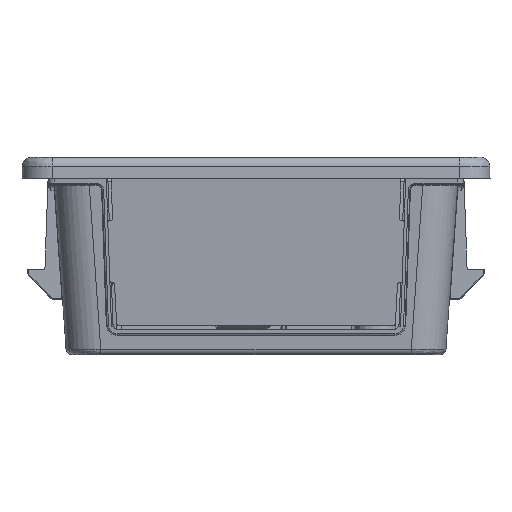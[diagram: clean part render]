
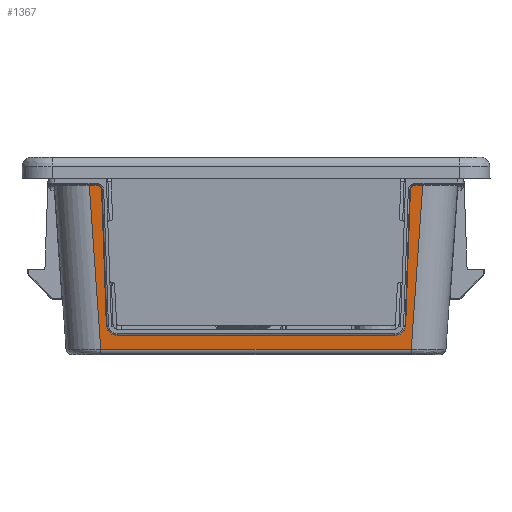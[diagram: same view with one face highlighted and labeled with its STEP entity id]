
A CAD part, front view. The second image highlights one B-rep face of the part: STEP entity #1367.
In plain terms, the highlighted planar face has unit normal (0, -0.998, -0.07).
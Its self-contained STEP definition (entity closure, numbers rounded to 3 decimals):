
#1367=ADVANCED_FACE('',(#28128),#28130,.T.);
#28128=FACE_BOUND('',#28129,.T.);
#28129=EDGE_LOOP('',(#48458,#48459,#48460,#48461,#48462,#48463,#48464,#48465,#48466,
#48467,#48468,#48469));
#28130=PLANE('',#28131);
#28131=AXIS2_PLACEMENT_3D('',#28132,#28133,#28134);
#28132=CARTESIAN_POINT('',(-37.25,-68.,33.));
#28133=DIRECTION('',(0.,-0.998,-0.07));
#28134=DIRECTION('',(-1.,0.,0.));
#48458=ORIENTED_EDGE('',*,*,#58704,.F.);
#48459=ORIENTED_EDGE('',*,*,#58741,.F.);
#48460=ORIENTED_EDGE('',*,*,#58742,.F.);
#48461=ORIENTED_EDGE('',*,*,#58743,.F.);
#48462=ORIENTED_EDGE('',*,*,#58744,.F.);
#48463=ORIENTED_EDGE('',*,*,#58745,.F.);
#48464=ORIENTED_EDGE('',*,*,#58746,.F.);
#48465=ORIENTED_EDGE('',*,*,#58747,.F.);
#48466=ORIENTED_EDGE('',*,*,#58748,.F.);
#48467=ORIENTED_EDGE('',*,*,#58749,.F.);
#48468=ORIENTED_EDGE('',*,*,#58750,.F.);
#48469=ORIENTED_EDGE('',*,*,#58738,.F.);
#58704=EDGE_CURVE('',#67347,#67344,#67349,.T.);
#58738=EDGE_CURVE('',#67344,#67399,#67400,.T.);
#58741=EDGE_CURVE('',#67404,#67347,#67405,.T.);
#58742=EDGE_CURVE('',#67406,#67404,#67407,.T.);
#58743=EDGE_CURVE('',#67408,#67406,#67409,.T.);
#58744=EDGE_CURVE('',#67410,#67408,#67411,.T.);
#58745=EDGE_CURVE('',#67412,#67410,#67413,.T.);
#58746=EDGE_CURVE('',#67414,#67412,#67415,.T.);
#58747=EDGE_CURVE('',#67416,#67414,#67417,.T.);
#58748=EDGE_CURVE('',#67418,#67416,#67419,.T.);
#58749=EDGE_CURVE('',#67420,#67418,#67421,.T.);
#58750=EDGE_CURVE('',#67399,#67420,#67422,.T.);
#67344=VERTEX_POINT('',#106872);
#67347=VERTEX_POINT('',#106906);
#67349=LINE('',#106911,#106912);
#67399=VERTEX_POINT('',#107186);
#67400=LINE('',#107187,#107188);
#67404=VERTEX_POINT('',#107223);
#67405=LINE('',#107224,#107225);
#67406=VERTEX_POINT('',#107227);
#67407=LINE('',#107228,#107229);
#67408=VERTEX_POINT('',#107231);
#67409=B_SPLINE_CURVE_WITH_KNOTS('',3,
(#107232,#107233,#107234,#107235,#107236,#107237,#107238,#107239,#107240,#107241,
#107242,#107243,#107244,#107245,#107246,#107247,#107248,#107249,#107250,#107251,
#107252,#107253,#107254,#107255,#107256,#107257,#107258,#107259),
.UNSPECIFIED.,.F.,.F.,
(4,2,2,2,2,2,2,2,2,2,2,2,2,4),
(0.,0.082,0.164,0.245,0.327,0.409,
0.491,0.573,0.655,0.736,0.818,
0.9,0.982,1.),
.UNSPECIFIED.);
#67410=VERTEX_POINT('',#107260);
#67411=LINE('',#107261,#107262);
#67412=VERTEX_POINT('',#107264);
#67413=CIRCLE('',#107265,3.7);
#67414=VERTEX_POINT('',#107269);
#67415=LINE('',#107270,#107271);
#67416=VERTEX_POINT('',#107273);
#67417=CIRCLE('',#107274,3.7);
#67418=VERTEX_POINT('',#107278);
#67419=LINE('',#107279,#107280);
#67420=VERTEX_POINT('',#107282);
#67421=B_SPLINE_CURVE_WITH_KNOTS('',3,
(#107283,#107284,#107285,#107286,#107287,#107288,#107289,#107290,#107291,#107292,
#107293,#107294,#107295,#107296,#107297,#107298,#107299,#107300,#107301,#107302,
#107303,#107304,#107305,#107306,#107307,#107308,#107309,#107310),
.UNSPECIFIED.,.F.,.F.,
(4,2,2,2,2,2,2,2,2,2,2,2,2,4),
(0.,0.082,0.164,0.245,0.327,0.409,
0.491,0.573,0.655,0.736,0.818,
0.9,0.982,1.),
.UNSPECIFIED.);
#67422=LINE('',#107311,#107312);
#106872=CARTESIAN_POINT('',(-21.831,-64.053,-23.44));
#106906=CARTESIAN_POINT('',(80.831,-64.053,-23.44));
#106911=CARTESIAN_POINT('',(80.831,-64.053,-23.44));
#106912=VECTOR('',#106913,1.);
#106913=DIRECTION('',(-1.,0.,0.));
#107186=CARTESIAN_POINT('',(-25.625,-67.847,30.814));
#107187=CARTESIAN_POINT('',(-21.831,-64.053,-23.44));
#107188=VECTOR('',#107189,1.);
#107189=DIRECTION('',(-0.07,-0.07,0.995));
#107223=CARTESIAN_POINT('',(84.625,-67.847,30.814));
#107224=CARTESIAN_POINT('',(84.625,-67.847,30.814));
#107225=VECTOR('',#107226,1.);
#107226=DIRECTION('',(-0.07,0.07,-0.995));
#107227=CARTESIAN_POINT('',(82.357,-67.847,30.814));
#107228=CARTESIAN_POINT('',(82.357,-67.847,30.814));
#107229=VECTOR('',#107230,1.);
#107230=DIRECTION('',(1.,0.,0.));
#107231=CARTESIAN_POINT('',(80.558,-67.726,29.077));
#107232=CARTESIAN_POINT('',(80.558,-67.726,29.077));
#107233=CARTESIAN_POINT('',(80.563,-67.731,29.152));
#107234=CARTESIAN_POINT('',(80.568,-67.736,29.227));
#107235=CARTESIAN_POINT('',(80.592,-67.747,29.376));
#107236=CARTESIAN_POINT('',(80.609,-67.752,29.45));
#107237=CARTESIAN_POINT('',(80.651,-67.762,29.594));
#107238=CARTESIAN_POINT('',(80.677,-67.767,29.666));
#107239=CARTESIAN_POINT('',(80.738,-67.776,29.803));
#107240=CARTESIAN_POINT('',(80.772,-67.781,29.871));
#107241=CARTESIAN_POINT('',(80.849,-67.79,30.));
#107242=CARTESIAN_POINT('',(80.892,-67.795,30.063));
#107243=CARTESIAN_POINT('',(80.985,-67.803,30.181));
#107244=CARTESIAN_POINT('',(81.035,-67.807,30.238));
#107245=CARTESIAN_POINT('',(81.142,-67.814,30.344));
#107246=CARTESIAN_POINT('',(81.199,-67.818,30.394));
#107247=CARTESIAN_POINT('',(81.318,-67.824,30.486));
#107248=CARTESIAN_POINT('',(81.381,-67.827,30.528));
#107249=CARTESIAN_POINT('',(81.511,-67.832,30.604));
#107250=CARTESIAN_POINT('',(81.579,-67.835,30.639));
#107251=CARTESIAN_POINT('',(81.717,-67.839,30.698));
#107252=CARTESIAN_POINT('',(81.789,-67.841,30.723));
#107253=CARTESIAN_POINT('',(81.933,-67.844,30.765));
#107254=CARTESIAN_POINT('',(82.007,-67.845,30.781));
#107255=CARTESIAN_POINT('',(82.156,-67.846,30.804));
#107256=CARTESIAN_POINT('',(82.231,-67.847,30.811));
#107257=CARTESIAN_POINT('',(82.323,-67.847,30.814));
#107258=CARTESIAN_POINT('',(82.34,-67.847,30.814));
#107259=CARTESIAN_POINT('',(82.357,-67.847,30.814));
#107260=CARTESIAN_POINT('',(79.002,-64.618,-15.371));
#107261=CARTESIAN_POINT('',(79.002,-64.618,-15.371));
#107262=VECTOR('',#107263,1.);
#107263=DIRECTION('',(0.035,-0.07,0.997));
#107264=CARTESIAN_POINT('',(75.304,-64.368,-18.934));
#107265=AXIS2_PLACEMENT_3D('',#107266,#107267,#107268);
#107266=CARTESIAN_POINT('',(75.304,-64.627,-15.243));
#107267=DIRECTION('',(0.,-0.998,-0.07));
#107268=DIRECTION('',(0.,0.07,-0.998));
#107269=CARTESIAN_POINT('',(-16.304,-64.368,-18.934));
#107270=CARTESIAN_POINT('',(-16.304,-64.368,-18.934));
#107271=VECTOR('',#107272,1.);
#107272=DIRECTION('',(1.,0.,0.));
#107273=CARTESIAN_POINT('',(-20.002,-64.618,-15.371));
#107274=AXIS2_PLACEMENT_3D('',#107275,#107276,#107277);
#107275=CARTESIAN_POINT('',(-16.304,-64.627,-15.243));
#107276=DIRECTION('',(0.,-0.998,-0.07));
#107277=DIRECTION('',(-0.999,0.002,-0.035));
#107278=CARTESIAN_POINT('',(-21.558,-67.726,29.077));
#107279=CARTESIAN_POINT('',(-21.558,-67.726,29.077));
#107280=VECTOR('',#107281,1.);
#107281=DIRECTION('',(0.035,0.07,-0.997));
#107282=CARTESIAN_POINT('',(-23.357,-67.847,30.814));
#107283=CARTESIAN_POINT('',(-23.357,-67.847,30.814));
#107284=CARTESIAN_POINT('',(-23.282,-67.847,30.812));
#107285=CARTESIAN_POINT('',(-23.206,-67.847,30.809));
#107286=CARTESIAN_POINT('',(-23.057,-67.845,30.79));
#107287=CARTESIAN_POINT('',(-22.982,-67.844,30.776));
#107288=CARTESIAN_POINT('',(-22.837,-67.842,30.739));
#107289=CARTESIAN_POINT('',(-22.764,-67.84,30.715));
#107290=CARTESIAN_POINT('',(-22.625,-67.836,30.66));
#107291=CARTESIAN_POINT('',(-22.556,-67.834,30.628));
#107292=CARTESIAN_POINT('',(-22.424,-67.829,30.555));
#107293=CARTESIAN_POINT('',(-22.36,-67.826,30.514));
#107294=CARTESIAN_POINT('',(-22.238,-67.82,30.426));
#107295=CARTESIAN_POINT('',(-22.18,-67.817,30.378));
#107296=CARTESIAN_POINT('',(-22.07,-67.809,30.275));
#107297=CARTESIAN_POINT('',(-22.018,-67.806,30.219));
#107298=CARTESIAN_POINT('',(-21.922,-67.797,30.103));
#107299=CARTESIAN_POINT('',(-21.877,-67.793,30.042));
#107300=CARTESIAN_POINT('',(-21.797,-67.784,29.915));
#107301=CARTESIAN_POINT('',(-21.76,-67.78,29.848));
#107302=CARTESIAN_POINT('',(-21.696,-67.77,29.712));
#107303=CARTESIAN_POINT('',(-21.668,-67.765,29.642));
#107304=CARTESIAN_POINT('',(-21.622,-67.755,29.499));
#107305=CARTESIAN_POINT('',(-21.603,-67.75,29.425));
#107306=CARTESIAN_POINT('',(-21.575,-67.74,29.277));
#107307=CARTESIAN_POINT('',(-21.565,-67.734,29.202));
#107308=CARTESIAN_POINT('',(-21.559,-67.728,29.11));
#107309=CARTESIAN_POINT('',(-21.559,-67.727,29.093));
#107310=CARTESIAN_POINT('',(-21.558,-67.726,29.077));
#107311=CARTESIAN_POINT('',(-25.625,-67.847,30.814));
#107312=VECTOR('',#107313,1.);
#107313=DIRECTION('',(1.,0.,0.));
